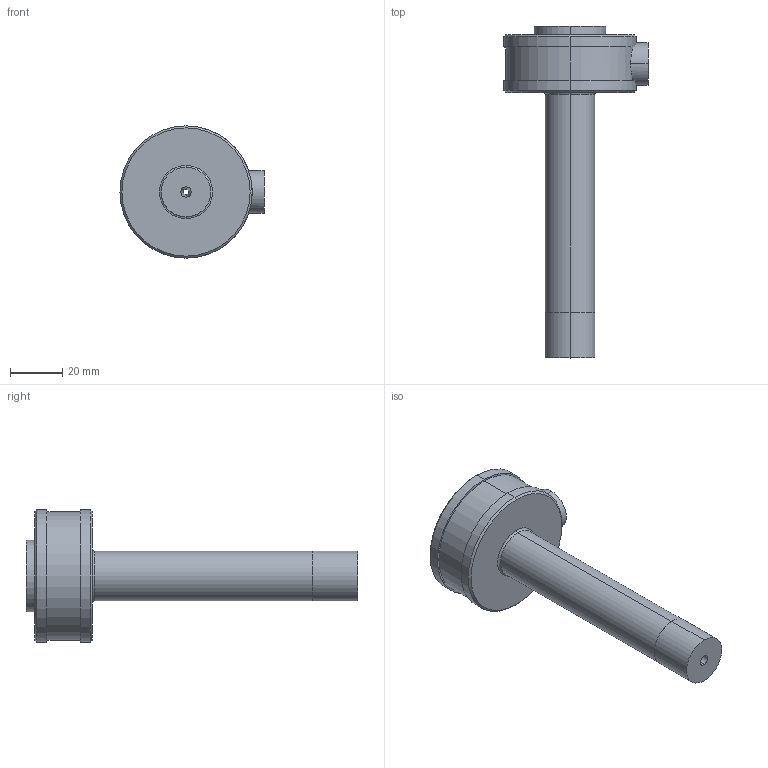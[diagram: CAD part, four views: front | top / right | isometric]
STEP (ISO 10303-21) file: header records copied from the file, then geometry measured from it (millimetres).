
FILE_DESCRIPTION (( 'STEP AP203' ), '1' );
FILE_NAME ('SB030036.STEP', '2009-05-05T17:42:27', ( 'Frank J. Eigler' ), ( 'DME' ), 'SwSTEP 2.0', 'SolidWorks 2009', '' );
FILE_SCHEMA (( 'CONFIG_CONTROL_DESIGN' ));
Length unit declared in the file: inch
Products named in the file (1): SB030036
Bounding box: 55.12 x 126.9 x 50.55 mm (x, y, z)
Volume: 71705.5 mm3; surface area: 15858.6 mm2
Topology: 1 solids, 1 shells, 37 faces, 92 edges, 58 vertices
Faces by surface type: cylinder 17, plane 8, cone 6, sphere 4, torus 2
Entity records: 1277 total; most frequent: CARTESIAN_POINT 278, DIRECTION 218, ORIENTED_EDGE 180, AXIS2_PLACEMENT_3D 96, EDGE_CURVE 90, VERTEX_POINT 58, CIRCLE 58, EDGE_LOOP 42
